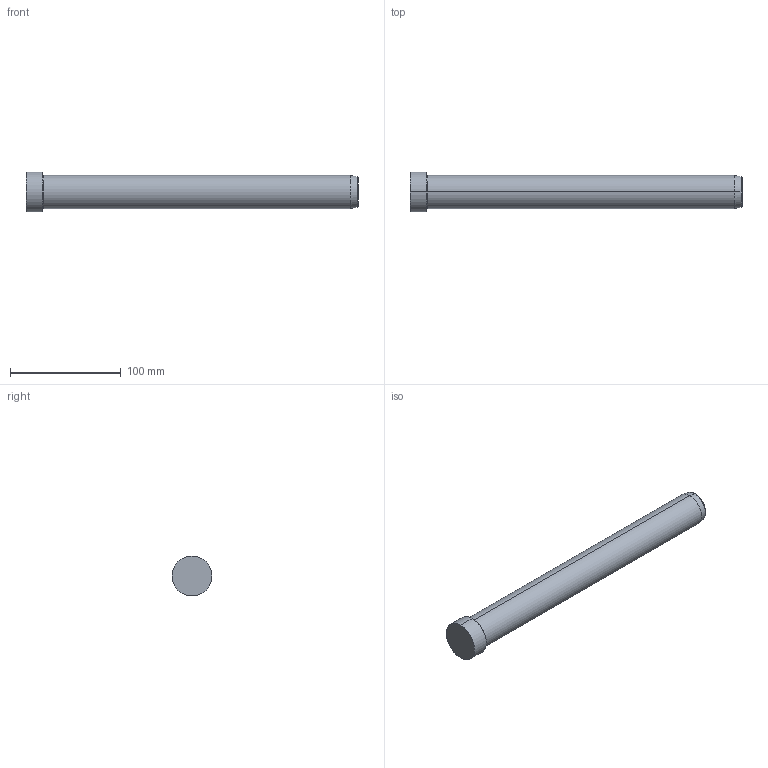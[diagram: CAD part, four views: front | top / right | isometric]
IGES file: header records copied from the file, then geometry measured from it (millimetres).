
Start section: SolidWorks IGES FILE using analytic representation for surfaces
Global section: file name: D:\zzzzz\Delta\D01 D\30\D01 D - 30x300.IGS; native system: SolidWorks 2004 by SolidWorks Corporation; preprocessor: Version 5.3; author: Hkn; date: 080327.145603; units: millimetre
Bounding box: 300 x 36 x 36 mm (x, y, z)
Surface area: 30485.1 mm2 (no closed solid volume)
Topology: 0 solids, 0 shells, 14 faces, 392 edges, 392 vertices
Faces by surface type: revolution 8, bspline 6
